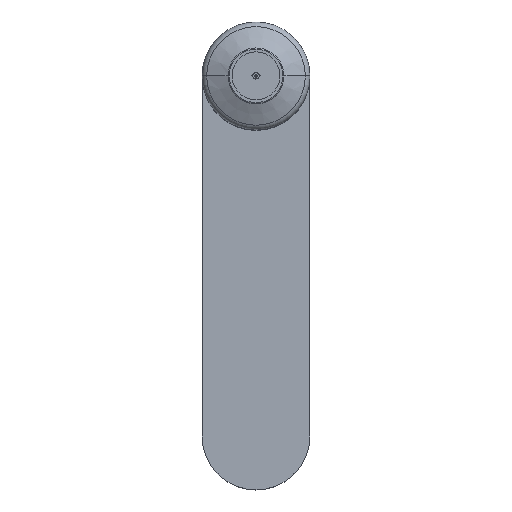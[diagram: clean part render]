
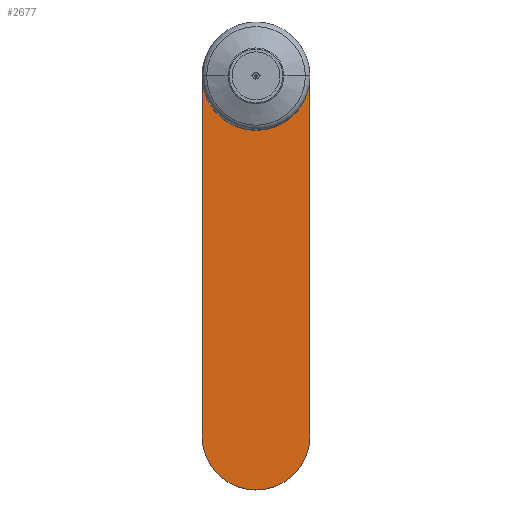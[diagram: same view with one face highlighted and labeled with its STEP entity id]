
A CAD part, top view. The second image highlights one B-rep face of the part: STEP entity #2677.
In plain terms, the highlighted planar face has unit normal (0, 0, 1).
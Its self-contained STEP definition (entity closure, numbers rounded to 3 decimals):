
#137 = VERTEX_POINT ( 'NONE', #8553 ) ;
#625 = FACE_OUTER_BOUND ( 'NONE', #9821, .T. ) ;
#867 = CARTESIAN_POINT ( 'NONE',  ( -13.5, 0., 15. ) ) ;
#962 = VERTEX_POINT ( 'NONE', #6174 ) ;
#1585 = CIRCLE ( 'NONE', #8138, 13.5 ) ;
#2077 = VECTOR ( 'NONE', #4714, 1000. ) ;
#2276 = AXIS2_PLACEMENT_3D ( 'NONE', #5181, #9875, #4108 ) ;
#2321 = ORIENTED_EDGE ( 'NONE', *, *, #6049, .T. ) ;
#2477 = CARTESIAN_POINT ( 'NONE',  ( 13.5, 0., 15. ) ) ;
#2553 = EDGE_CURVE ( 'NONE', #2818, #137, #6723, .T. ) ;
#2649 = DIRECTION ( 'NONE',  ( 0., -1., 0. ) ) ;
#2677 = ADVANCED_FACE ( 'NONE', ( #625 ), #8148, .T. ) ;
#2818 = VERTEX_POINT ( 'NONE', #7357 ) ;
#3154 = AXIS2_PLACEMENT_3D ( 'NONE', #9297, #10209, #2649 ) ;
#3285 = CARTESIAN_POINT ( 'NONE',  ( -13.5, 0., 15. ) ) ;
#3352 = EDGE_CURVE ( 'NONE', #137, #962, #7284, .T. ) ;
#3581 = VERTEX_POINT ( 'NONE', #12301 ) ;
#4095 = EDGE_CURVE ( 'NONE', #962, #4800, #6441, .T. ) ;
#4108 = DIRECTION ( 'NONE',  ( 0., -1., 0. ) ) ;
#4146 = ORIENTED_EDGE ( 'NONE', *, *, #3352, .T. ) ;
#4206 = CARTESIAN_POINT ( 'NONE',  ( 0., -90., 15. ) ) ;
#4513 = DIRECTION ( 'NONE',  ( 0., 0., 1. ) ) ;
#4714 = DIRECTION ( 'NONE',  ( 0., -1., 0. ) ) ;
#4800 = VERTEX_POINT ( 'NONE', #3285 ) ;
#5181 = CARTESIAN_POINT ( 'NONE',  ( 0., 0., 15. ) ) ;
#5225 = DIRECTION ( 'NONE',  ( 0., 1., 0. ) ) ;
#5972 = VECTOR ( 'NONE', #5225, 1000. ) ;
#6049 = EDGE_CURVE ( 'NONE', #4800, #3581, #8405, .T. ) ;
#6174 = CARTESIAN_POINT ( 'NONE',  ( 0., -13.5, 15. ) ) ;
#6441 = CIRCLE ( 'NONE', #2276, 13.5 ) ;
#6723 = LINE ( 'NONE', #2477, #5972 ) ;
#6946 = EDGE_CURVE ( 'NONE', #3581, #2818, #1585, .T. ) ;
#7284 = CIRCLE ( 'NONE', #3154, 13.5 ) ;
#7357 = CARTESIAN_POINT ( 'NONE',  ( 13.5, -90., 15. ) ) ;
#7977 = ORIENTED_EDGE ( 'NONE', *, *, #6946, .T. ) ;
#8138 = AXIS2_PLACEMENT_3D ( 'NONE', #4206, #8939, #8828 ) ;
#8148 = PLANE ( 'NONE',  #9734 ) ;
#8405 = LINE ( 'NONE', #867, #2077 ) ;
#8553 = CARTESIAN_POINT ( 'NONE',  ( 13.5, 0., 15. ) ) ;
#8828 = DIRECTION ( 'NONE',  ( 0., -1., 0. ) ) ;
#8939 = DIRECTION ( 'NONE',  ( 0., 0., 1. ) ) ;
#9297 = CARTESIAN_POINT ( 'NONE',  ( 0., 0., 15. ) ) ;
#9303 = ORIENTED_EDGE ( 'NONE', *, *, #2553, .T. ) ;
#9734 = AXIS2_PLACEMENT_3D ( 'NONE', #10076, #4513, #10119 ) ;
#9821 = EDGE_LOOP ( 'NONE', ( #9303, #4146, #10757, #2321, #7977 ) ) ;
#9875 = DIRECTION ( 'NONE',  ( 0., 0., -1. ) ) ;
#10076 = CARTESIAN_POINT ( 'NONE',  ( 0., -90., 15. ) ) ;
#10119 = DIRECTION ( 'NONE',  ( 0., -1., 0. ) ) ;
#10209 = DIRECTION ( 'NONE',  ( 0., 0., -1. ) ) ;
#10757 = ORIENTED_EDGE ( 'NONE', *, *, #4095, .T. ) ;
#12301 = CARTESIAN_POINT ( 'NONE',  ( -13.5, -90., 15. ) ) ;
